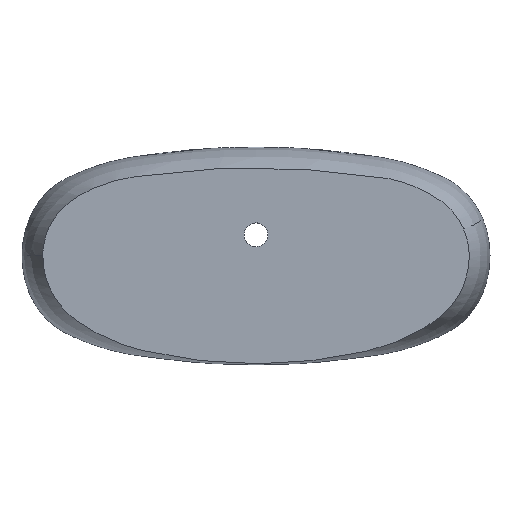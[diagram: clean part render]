
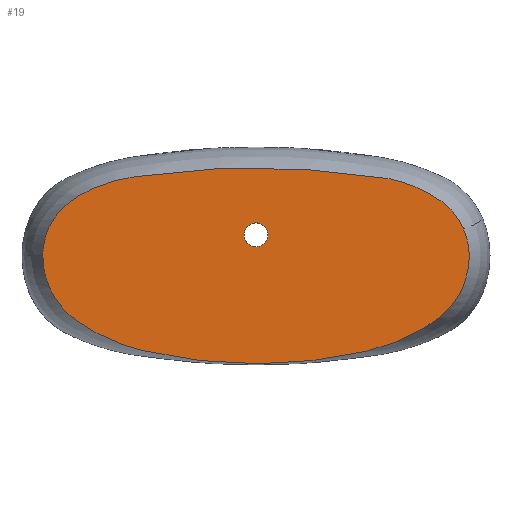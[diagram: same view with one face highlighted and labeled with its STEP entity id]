
A CAD part, front view. The second image highlights one B-rep face of the part: STEP entity #19.
In plain terms, the highlighted planar face has unit normal (0, -1, 0).
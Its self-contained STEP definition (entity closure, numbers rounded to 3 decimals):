
#15=FACE_BOUND('',#100,.T.);
#19=ADVANCED_FACE('',(#59,#15),#654,.T.);
#59=FACE_OUTER_BOUND('',#99,.T.);
#99=EDGE_LOOP('',(#155,#156));
#100=EDGE_LOOP('',(#157,#158));
#155=ORIENTED_EDGE('',*,*,#437,.T.);
#156=ORIENTED_EDGE('',*,*,#347,.T.);
#157=ORIENTED_EDGE('',*,*,#444,.F.);
#158=ORIENTED_EDGE('',*,*,#439,.F.);
#347=EDGE_CURVE('',#556,#555,#528,.T.);
#437=EDGE_CURVE('',#555,#556,#550,.T.);
#439=EDGE_CURVE('',#571,#617,#519,.T.);
#444=EDGE_CURVE('',#617,#571,#523,.T.);
#519=(
BOUNDED_CURVE()
B_SPLINE_CURVE(2,(#8786,#8787,#8788,#8789,#8790),.UNSPECIFIED.,.F.,.F.)
B_SPLINE_CURVE_WITH_KNOTS((3,2,3),(0.,36.128,72.257),
 .UNSPECIFIED.)
CURVE()
GEOMETRIC_REPRESENTATION_ITEM()
RATIONAL_B_SPLINE_CURVE((1.,0.707,1.,0.707,1.))
REPRESENTATION_ITEM('')
);
#523=(
BOUNDED_CURVE()
B_SPLINE_CURVE(2,(#8810,#8811,#8812,#8813,#8814),.UNSPECIFIED.,.F.,.F.)
B_SPLINE_CURVE_WITH_KNOTS((3,2,3),(72.257,108.385,144.513),
 .UNSPECIFIED.)
CURVE()
GEOMETRIC_REPRESENTATION_ITEM()
RATIONAL_B_SPLINE_CURVE((1.,0.707,1.,0.707,1.))
REPRESENTATION_ITEM('')
);
#528=B_SPLINE_CURVE_WITH_KNOTS('',3,(#6218,#6219,#6220,#6221,#6222,#6223,
#6224,#6225,#6226,#6227,#6228,#6229,#6230,#6231,#6232,#6233,#6234,#6235,
#6236,#6237,#6238,#6239,#6240,#6241,#6242,#6243,#6244,#6245,#6246,#6247,
#6248,#6249,#6250,#6251),.UNSPECIFIED.,.F.,.F.,(4,2,2,2,2,2,2,2,2,2,2,2,
2,2,2,2,4),(9.025,10.686,11.749,12.239,
12.621,13.16,14.108,14.821,27.465,
29.223,31.088,41.796,43.23,44.804,
47.124,50.246,50.756),.UNSPECIFIED.);
#550=B_SPLINE_CURVE_WITH_KNOTS('',3,(#8728,#8729,#8730,#8731,#8732,#8733,
#8734,#8735,#8736,#8737,#8738,#8739,#8740,#8741,#8742,#8743,#8744,#8745,
#8746,#8747,#8748,#8749,#8750,#8751,#8752,#8753,#8754,#8755,#8756,#8757,
#8758,#8759,#8760,#8761,#8762,#8763,#8764,#8765),.UNSPECIFIED.,.F.,.F.,
(4,2,2,2,2,2,2,2,2,2,2,3,3,2,2,2,2,4),(-53.121,-49.426,
-46.759,-44.517,-40.856,-38.513,
-36.328,-19.002,-9.503,-6.933,-3.668,
-1.183,0.,2.359,5.361,7.666,
8.914,9.025),.UNSPECIFIED.);
#555=VERTEX_POINT('',#6152);
#556=VERTEX_POINT('',#6153);
#571=VERTEX_POINT('',#6168);
#617=VERTEX_POINT('',#6214);
#654=PLANE('',#682);
#682=AXIS2_PLACEMENT_3D('',#1232,#689,$);
#689=DIRECTION('',(0.,-1.,0.));
#1232=CARTESIAN_POINT('',(-410.197,-140.,-254.873));
#6152=CARTESIAN_POINT('',(399.201,-139.999,11.312));
#6153=CARTESIAN_POINT('',(-409.999,-140.,-40.));
#6168=CARTESIAN_POINT('',(0.,-140.,-23.));
#6214=CARTESIAN_POINT('',(0.,-140.,23.));
#6218=CARTESIAN_POINT('',(-409.999,-140.,-40.));
#6219=CARTESIAN_POINT('',(-410.055,-140.,-50.784));
#6220=CARTESIAN_POINT('',(-408.898,-140.,-67.812));
#6221=CARTESIAN_POINT('',(-398.545,-140.,-99.515));
#6222=CARTESIAN_POINT('',(-391.526,-140.,-115.534));
#6223=CARTESIAN_POINT('',(-373.076,-140.,-139.634));
#6224=CARTESIAN_POINT('',(-367.135,-140.,-146.019));
#6225=CARTESIAN_POINT('',(-356.608,-140.,-155.88));
#6226=CARTESIAN_POINT('',(-352.207,-140.,-159.502));
#6227=CARTESIAN_POINT('',(-342.051,-140.,-167.141));
#6228=CARTESIAN_POINT('',(-330.13,-140.,-175.338));
#6229=CARTESIAN_POINT('',(-294.349,-140.,-196.269));
#6230=CARTESIAN_POINT('',(-271.831,-140.,-206.112));
#6231=CARTESIAN_POINT('',(-233.881,-140.,-218.876));
#6232=CARTESIAN_POINT('',(-221.858,-140.,-221.687));
#6233=CARTESIAN_POINT('',(-95.398,-139.999,-251.086));
#6234=CARTESIAN_POINT('',(25.953,-139.999,-254.864));
#6235=CARTESIAN_POINT('',(158.694,-139.999,-234.725));
#6236=CARTESIAN_POINT('',(173.202,-139.999,-232.105));
#6237=CARTESIAN_POINT('',(200.393,-139.999,-226.664));
#6238=CARTESIAN_POINT('',(212.962,-139.999,-223.826));
#6239=CARTESIAN_POINT('',(266.995,-139.999,-210.6));
#6240=CARTESIAN_POINT('',(308.588,-139.999,-190.846));
#6241=CARTESIAN_POINT('',(349.272,-139.999,-161.821));
#6242=CARTESIAN_POINT('',(361.053,-139.999,-153.173));
#6243=CARTESIAN_POINT('',(386.378,-139.999,-123.737));
#6244=CARTESIAN_POINT('',(395.07,-139.999,-107.909));
#6245=CARTESIAN_POINT('',(409.305,-139.999,-69.106));
#6246=CARTESIAN_POINT('',(410.247,-139.999,-48.844));
#6247=CARTESIAN_POINT('',(409.57,-139.999,-21.755));
#6248=CARTESIAN_POINT('',(406.432,-139.999,-7.433));
#6249=CARTESIAN_POINT('',(400.887,-139.999,7.3));
#6250=CARTESIAN_POINT('',(400.064,-139.999,9.327));
#6251=CARTESIAN_POINT('',(399.201,-139.999,11.312));
#8728=CARTESIAN_POINT('',(399.201,-139.999,11.312));
#8729=CARTESIAN_POINT('',(392.95,-139.999,25.688));
#8730=CARTESIAN_POINT('',(384.575,-139.999,37.85));
#8731=CARTESIAN_POINT('',(368.64,-139.999,55.033));
#8732=CARTESIAN_POINT('',(362.007,-140.,60.604));
#8733=CARTESIAN_POINT('',(350.334,-140.,68.959));
#8734=CARTESIAN_POINT('',(340.417,-140.,75.342));
#8735=CARTESIAN_POINT('',(312.696,-140.,90.326));
#8736=CARTESIAN_POINT('',(296.076,-140.,96.943));
#8737=CARTESIAN_POINT('',(270.194,-140.,104.841));
#8738=CARTESIAN_POINT('',(261.879,-140.,106.777));
#8739=CARTESIAN_POINT('',(247.929,-140.,109.579));
#8740=CARTESIAN_POINT('',(241.997,-140.,110.517));
#8741=CARTESIAN_POINT('',(122.384,-140.,127.783));
#8742=CARTESIAN_POINT('',(18.803,-140.,131.869));
#8743=CARTESIAN_POINT('',(-135.505,-140.,124.053));
#8744=CARTESIAN_POINT('',(-186.042,-140.,118.729));
#8745=CARTESIAN_POINT('',(-246.02,-140.,109.891));
#8746=CARTESIAN_POINT('',(-253.019,-140.,108.785));
#8747=CARTESIAN_POINT('',(-277.541,-140.,102.967));
#8748=CARTESIAN_POINT('',(-289.055,-140.,99.152));
#8749=CARTESIAN_POINT('',(-306.861,-140.,92.244));
#8750=CARTESIAN_POINT('',(-314.382,-140.,88.924));
#8751=CARTESIAN_POINT('',(-321.76,-140.,85.252));
#8752=CARTESIAN_POINT('',(-325.271,-140.,83.505));
#8753=CARTESIAN_POINT('',(-328.749,-140.,81.678));
#8754=CARTESIAN_POINT('',(-332.199,-140.,79.77));
#8755=CARTESIAN_POINT('',(-339.08,-140.,75.962));
#8756=CARTESIAN_POINT('',(-345.293,-140.,72.141));
#8757=CARTESIAN_POINT('',(-358.162,-140.,63.582));
#8758=CARTESIAN_POINT('',(-373.498,-140.,52.873));
#8759=CARTESIAN_POINT('',(-397.488,-140.,18.031));
#8760=CARTESIAN_POINT('',(-403.907,-140.,1.964));
#8761=CARTESIAN_POINT('',(-409.025,-140.,-22.431));
#8762=CARTESIAN_POINT('',(-409.823,-140.,-30.461));
#8763=CARTESIAN_POINT('',(-409.987,-140.,-38.59));
#8764=CARTESIAN_POINT('',(-409.996,-140.,-39.281));
#8765=CARTESIAN_POINT('',(-409.999,-140.,-40.));
#8786=CARTESIAN_POINT('',(0.,-140.,-23.));
#8787=CARTESIAN_POINT('',(23.,-140.,-23.));
#8788=CARTESIAN_POINT('',(23.,-140.,0.));
#8789=CARTESIAN_POINT('',(23.,-140.,23.));
#8790=CARTESIAN_POINT('',(0.,-140.,23.));
#8810=CARTESIAN_POINT('',(0.,-140.,23.));
#8811=CARTESIAN_POINT('',(-23.,-140.,23.));
#8812=CARTESIAN_POINT('',(-23.,-140.,0.));
#8813=CARTESIAN_POINT('',(-23.,-140.,-23.));
#8814=CARTESIAN_POINT('',(0.,-140.,-23.));
